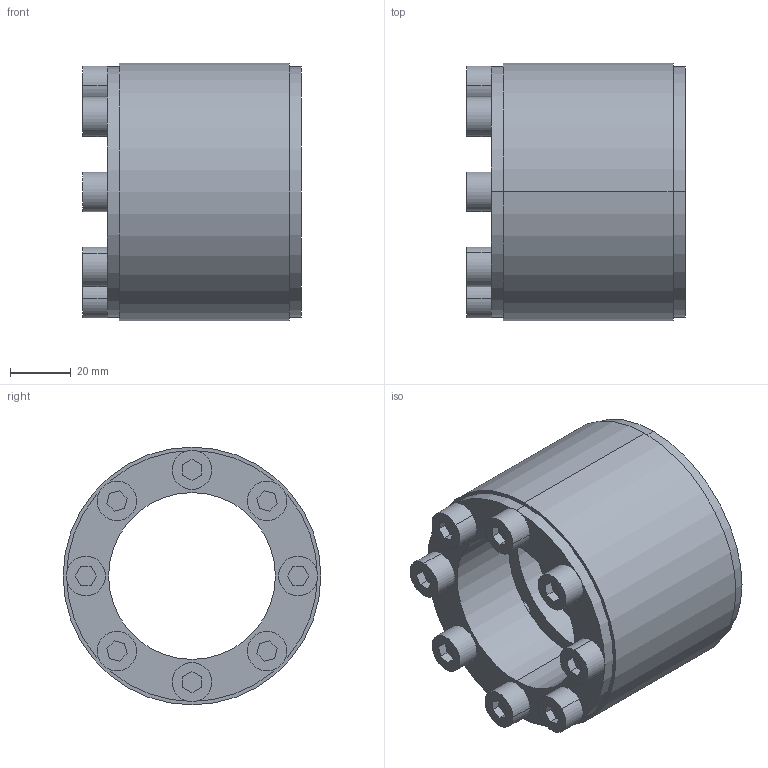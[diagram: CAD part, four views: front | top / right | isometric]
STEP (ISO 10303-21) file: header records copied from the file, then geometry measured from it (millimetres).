
FILE_DESCRIPTION (( 'STEP AP203' ), '1' );
FILE_NAME ('SF-55.STEP', '2009-09-29T17:16:21', ( 'USER' ), ( 'HOME' ), 'SwSTEP 2.0', 'SolidWorks 2007', '' );
FILE_SCHEMA (( 'CONFIG_CONTROL_DESIGN' ));
Length unit declared in the file: millimetre
Products named in the file (1): SF-55
Bounding box: 72 x 85 x 85 mm (x, y, z)
Volume: 194525.6 mm3; surface area: 68924.6 mm2
Topology: 9 solids, 9 shells, 184 faces, 432 edges, 288 vertices
Faces by surface type: cylinder 96, plane 88
Entity records: 5509 total; most frequent: DIRECTION 994, CARTESIAN_POINT 905, ORIENTED_EDGE 864, EDGE_CURVE 432, AXIS2_PLACEMENT_3D 377, VERTEX_POINT 288, EDGE_LOOP 256, VECTOR 240
